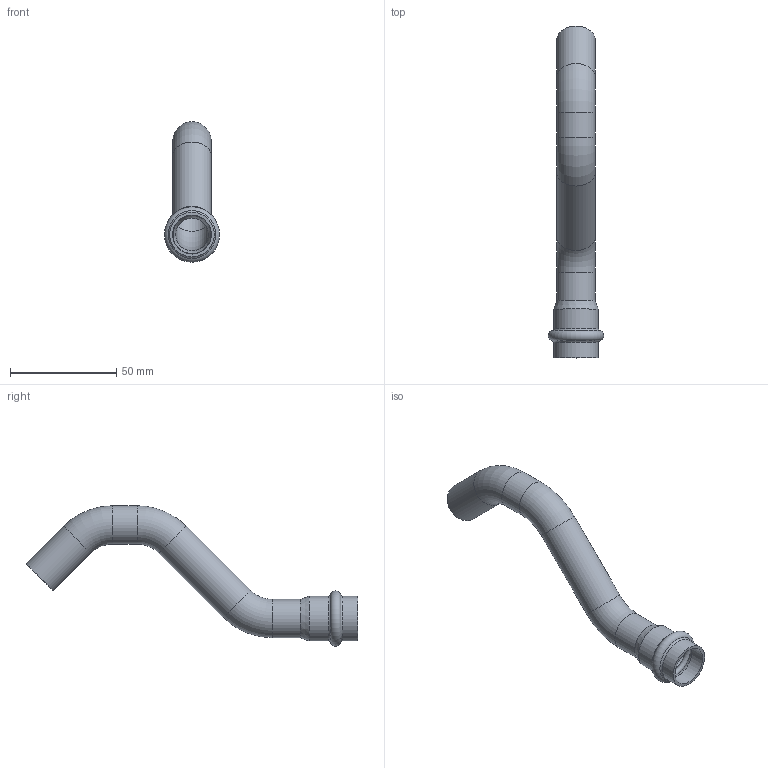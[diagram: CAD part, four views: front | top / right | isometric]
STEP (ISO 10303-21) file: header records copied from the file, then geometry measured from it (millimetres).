
FILE_DESCRIPTION(('STEP AP203'), '1');
FILE_NAME('覆.302661.002.000 捘 - VTi.970.I.001818', '', ('UNSPECIFIED'), ('UNSPECIFIED'), 'C3D Converter', 'C3D Toolkit', '');
FILE_SCHEMA(('CONFIG_CONTROL_DESIGN'));
Length unit declared in the file: millimetre
Products named in the file (1): ВР.302661.002.000 СБ
Bounding box: 25.99 x 156 x 66 mm (x, y, z)
Volume: 13319.7 mm3; surface area: 19700.3 mm2
Topology: 1 solids, 2 shells, 30 faces, 64 edges, 36 vertices
Faces by surface type: torus 14, cylinder 12, plane 2, cone 2
Full cylindrical faces by diameter (mm): 15.3 x4, 18 x4, 18.3 x2, 21 x2
Entity records: 710 total; most frequent: DIRECTION 134, CARTESIAN_POINT 103, ORIENTED_EDGE 72, AXIS2_PLACEMENT_3D 67, EDGE_LOOP 60, FACE_OUTER_BOUND 44, EDGE_CURVE 36, VERTEX_POINT 36
